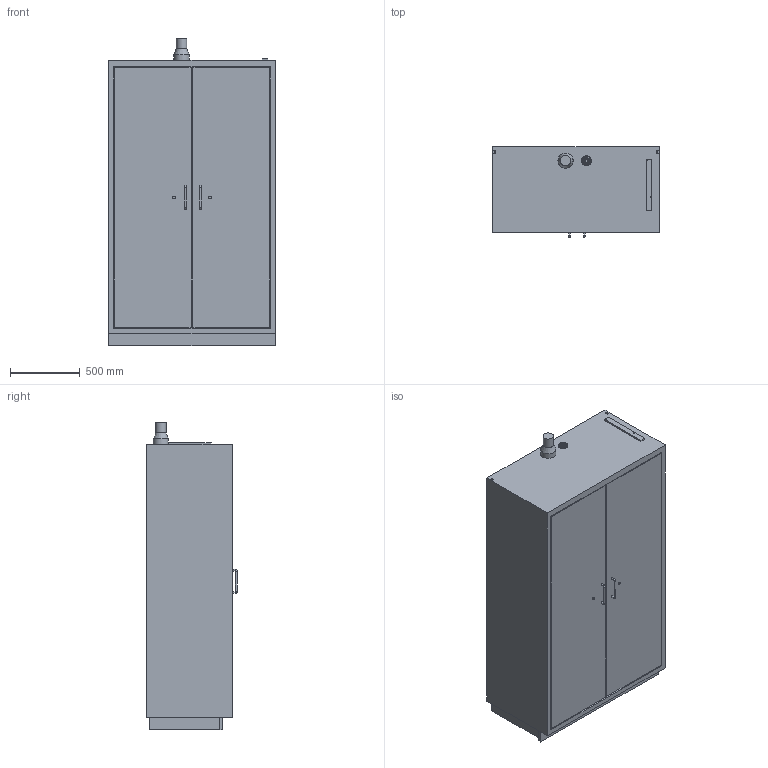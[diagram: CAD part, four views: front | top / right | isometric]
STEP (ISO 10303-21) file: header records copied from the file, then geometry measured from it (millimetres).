
FILE_DESCRIPTION(/* description */ ('Unknown'),/* implementation_level */ '2;1');
FILE_NAME(/* name */ 'Sicherheitsschrank Typ 90_D00086242',/* time_stamp */ '2019-04-10T11:29:21+02:00',/* author */ ('Unknown'),/* organization */ ('Unknown'),/* preprocessor_version */ 'ST-DEVELOPER v16.7',/* originating_system */ 'DEX',/* authorisation */ $);
FILE_SCHEMA (('AUTOMOTIVE_DESIGN {1 0 10303 214 3 1 1}'));
Length unit declared in the file: millimetre
Products named in the file (1): Sicherheitsschrank Typ 90_D00086242
Bounding box: 1194 x 647 x 2203 mm (x, y, z)
Volume: 1430228093.3 mm3; surface area: 10068979.3 mm2
Topology: 1 solids, 1 shells, 118 faces, 281 edges, 186 vertices
Faces by surface type: plane 85, cylinder 28, torus 4, cone 1
Full cylindrical faces by diameter (mm): 6.2 x2, 7.5 x2, 12 x6, 18 x2, 75 x1, 109.5 x1
Entity records: 4109 total; most frequent: CARTESIAN_POINT 557, DIRECTION 552, ORIENTED_EDGE 514, EDGE_CURVE 257, LINE 200, VECTOR 200, VERTEX_POINT 181, AXIS2_PLACEMENT_3D 176
